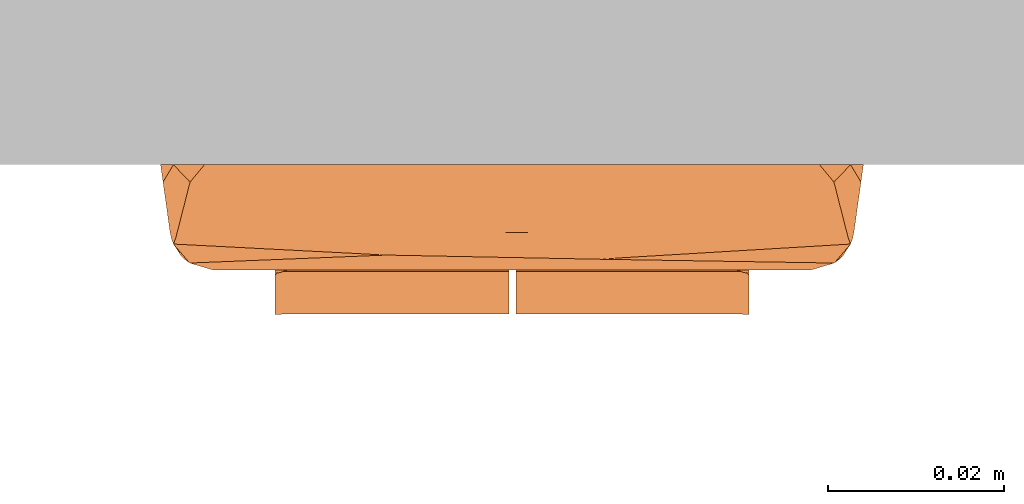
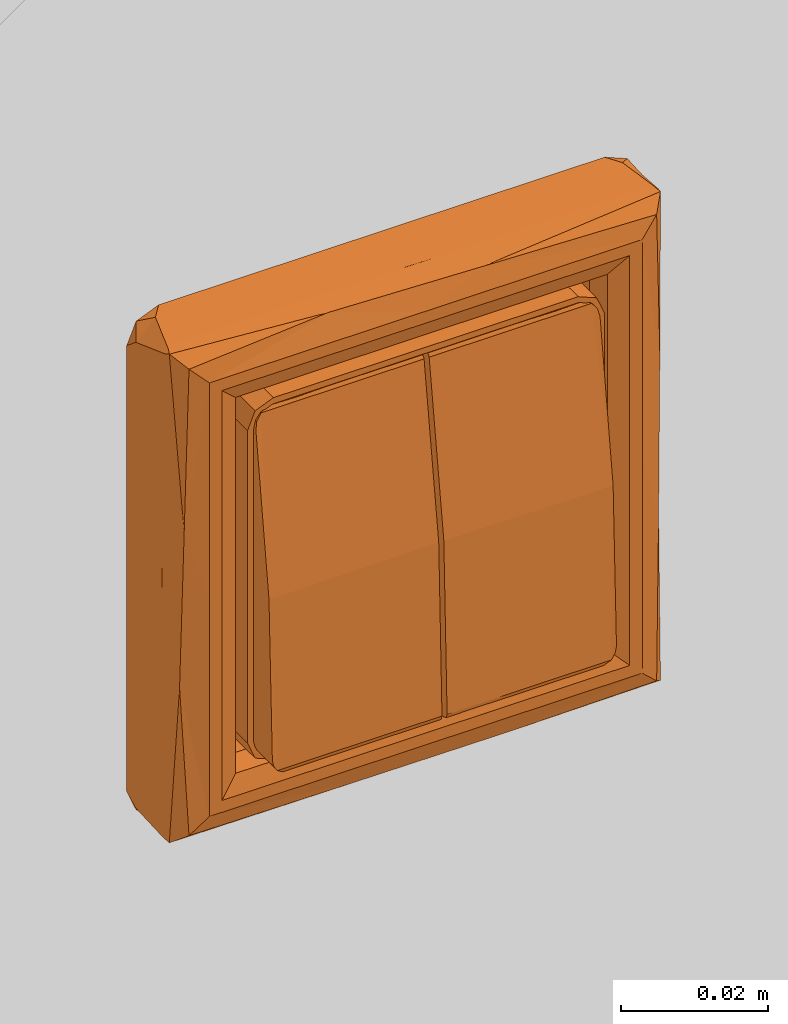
# One storey, part 124 of 197: 1 proxy.
"""IFC2X3 building model written with IfcOpenShell, lengths in metres."""

import ifcopenshell
import ifcopenshell.guid

model = None  # the IFC model being written
_history = None  # IfcOwnerHistory: only IFC2X3 demands one
_inside = {}  # id of a spatial element -> (the spatial element, [elements in it])
_under = {}  # id of a project, library or spatial element -> (it, [spatial elements below it])
_declared = {}  # id of a project -> (the project, [libraries it declares])
_typed = {}  # id of a type object -> (the type object, [elements of that type])
_made_of = {}  # id of a material, layer set ... -> (it, [elements and type objects made of it])


def new_model(schema):
    """Start an empty IFC model of exactly this schema.

    Asked for "IFC4X3", IfcOpenShell would pick the latest addendum, in which some entities
    have other attributes; the version numbers below select the first issue.
    IFC2X3 requires an IfcOwnerHistory on every rooted entity: one is made here for all.
    """
    global model, _history
    if schema == "IFC4X3":
        model = ifcopenshell.file(schema_version=(4, 3, 0, 0))
    else:
        model = ifcopenshell.file(schema=schema)
    _inside.clear()
    _under.clear()
    _declared.clear()
    _typed.clear()
    _made_of.clear()
    _history = None
    if model.schema == "IFC2X3":
        org = make("IfcOrganization", Name="unknown")
        user = make(
            "IfcPersonAndOrganization",
            ThePerson=make("IfcPerson", FamilyName="unknown"),
            TheOrganization=org,
        )
        app = make(
            "IfcApplication",
            ApplicationDeveloper=org,
            Version="unknown",
            ApplicationFullName="unknown",
            ApplicationIdentifier="unknown",
        )
        _history = make(
            "IfcOwnerHistory",
            OwningUser=user,
            OwningApplication=app,
            ChangeAction="ADDED",
            CreationDate=0,
        )
    return model


def make(cls, **values):
    """One entity of the class cls with the attributes given. An attribute that is None is left unset."""
    return model.create_entity(
        cls, **{name: value for name, value in values.items() if value is not None}
    )


def entity(cls, *values):
    """Any entity or typed value of the class cls, its attributes in the order of the schema. None: left unset."""
    e = model.create_entity(cls)
    for i, value in enumerate(values):
        if value is not None:
            e[i] = value
    return e


def rooted(cls, **values):
    """An entity with a GlobalId (a new one), such as an element, a storey or a relation."""
    return make(cls, GlobalId=ifcopenshell.guid.new(), OwnerHistory=_history, **values)


def si_unit(unit_type, name, prefix=None):
    """IfcSIUnit, for example si_unit("LENGTHUNIT", "METRE", prefix="MILLI")."""
    return make("IfcSIUnit", UnitType=unit_type, Prefix=prefix, Name=name)


def converted_unit(unit_type, name, factor, base, dimensions=None, offset=None):
    """IfcConversionBasedUnit, such as the inch: factor (a typed value) times the base unit."""
    return make(
        "IfcConversionBasedUnit"
        if offset is None
        else "IfcConversionBasedUnitWithOffset",
        ConversionOffset=offset,
        Dimensions=None
        if dimensions is None
        else entity("IfcDimensionalExponents", *dimensions),
        UnitType=unit_type,
        Name=name,
        ConversionFactor=make(
            "IfcMeasureWithUnit", ValueComponent=factor, UnitComponent=base
        ),
    )


def assignment(units):
    """IfcUnitAssignment: the units of a project."""
    return None if units is None else make("IfcUnitAssignment", Units=units)


def point(xyz):
    """IfcCartesianPoint."""
    return None if xyz is None else make("IfcCartesianPoint", Coordinates=xyz)


def direction(xyz):
    """IfcDirection."""
    return None if xyz is None else make("IfcDirection", DirectionRatios=xyz)


def frame(location, z_axis=None, x_axis=None):
    """IfcAxis2Placement3D, a coordinate frame: its origin and axes. An axis left out is left unset."""
    return make(
        "IfcAxis2Placement3D",
        Location=point(location),
        Axis=direction(z_axis),
        RefDirection=direction(x_axis),
    )


def origin():
    """The frame at (0, 0, 0) with its axes left unset."""
    return frame((0.0, 0.0, 0.0))


def place(relative_to, where):
    """IfcLocalPlacement: puts the frame where relative to a parent placement (None: the world)."""
    return make(
        "IfcLocalPlacement", PlacementRelTo=relative_to, RelativePlacement=where
    )


def context(
    kind, dimensions, precision=None, world=None, true_north=None, identifier=None
):
    """IfcGeometricRepresentationContext, for example the 3D "Model" context."""
    return make(
        "IfcGeometricRepresentationContext",
        ContextIdentifier=identifier,
        ContextType=kind,
        CoordinateSpaceDimension=dimensions,
        Precision=precision,
        WorldCoordinateSystem=world,
        TrueNorth=true_north,
    )


def subcontext(parent, identifier, kind, view, scale=None):
    """IfcGeometricRepresentationSubContext, for example "Body" below "Model"."""
    return make(
        "IfcGeometricRepresentationSubContext",
        ContextIdentifier=identifier,
        ContextType=kind,
        ParentContext=parent,
        TargetScale=scale,
        TargetView=view,
    )


def project(units=None, contexts=None):
    """IfcProject with its units and contexts."""
    return rooted(
        "IfcProject",
        Name="project",
        RepresentationContexts=contexts,
        UnitsInContext=assignment(units),
    )


def spatial(cls, under=None, at=None, **own):
    """A site, building, storey or space (cls), placed at a placement, below another one or the project."""
    s = rooted(cls, ObjectPlacement=at, **own)
    if under is not None:
        _under.setdefault(under.id(), (under, []))[1].append(s)
    return s


def faces_of(points, faces, orient=None, outer=None):
    """IfcFace entities. A face is a list of loops; a loop is a list of indices into points, from 0.

    orient and outer hold one flag for each loop. By default every Orientation is true, the
    first loop of a face is its IfcFaceOuterBound and the others are IfcFaceBound.
    """
    made = []
    for i, loops in enumerate(faces):
        bounds = []
        for j, loop in enumerate(loops):
            is_outer = j == 0 if outer is None else outer[i][j]
            bounds.append(
                make(
                    "IfcFaceOuterBound" if is_outer else "IfcFaceBound",
                    Bound=make("IfcPolyLoop", Polygon=[points[k] for k in loop]),
                    Orientation=True if orient is None else orient[i][j],
                )
            )
        made.append(make("IfcFace", Bounds=bounds))
    return made


def faceted_brep(points, faces, orient=None, outer=None, voids=None):
    """IfcFacetedBrep: a solid bounded by flat faces; with voids (closed shells), ...WithVoids."""
    shared = [point(p) for p in points]
    hull = make("IfcClosedShell", CfsFaces=faces_of(shared, faces, orient, outer))
    if voids is None:
        return make("IfcFacetedBrep", Outer=hull)
    return make(
        "IfcFacetedBrepWithVoids",
        Outer=hull,
        Voids=[
            make(cls, CfsFaces=faces_of(shared, fs, o, b)) for cls, fs, o, b in voids
        ],
    )


def shape(context_of_items, identifier, shape_type, items):
    """IfcShapeRepresentation: the items that make up one representation, for example the "Body"."""
    return make(
        "IfcShapeRepresentation",
        ContextOfItems=context_of_items,
        RepresentationIdentifier=identifier,
        RepresentationType=shape_type,
        Items=items,
    )


def source(mapping_origin, context_of_items, identifier, shape_type, items):
    """IfcRepresentationMap: a shape defined once, which mapped items show again and again."""
    return make(
        "IfcRepresentationMap",
        MappingOrigin=mapping_origin,
        MappedRepresentation=shape(context_of_items, identifier, shape_type, items),
    )


def transform(
    local_origin,
    x_axis=None,
    y_axis=None,
    z_axis=None,
    scale=None,
    scale2=None,
    scale3=None,
    uniform=True,
):
    """IfcCartesianTransformationOperator3D, or its non-uniform kind. x_axis, y_axis, z_axis: its Axis1, 2, 3."""
    if uniform:
        return make(
            "IfcCartesianTransformationOperator3D",
            Axis1=direction(x_axis),
            Axis2=direction(y_axis),
            LocalOrigin=point(local_origin),
            Scale=scale,
            Axis3=direction(z_axis),
        )
    return make(
        "IfcCartesianTransformationOperator3DnonUniform",
        Axis1=direction(x_axis),
        Axis2=direction(y_axis),
        LocalOrigin=point(local_origin),
        Scale=scale,
        Axis3=direction(z_axis),
        Scale2=scale2,
        Scale3=scale3,
    )


def mapped(mapping_source, mapping_target):
    """IfcMappedItem: shows the shape of a source again, moved by a transform."""
    return make(
        "IfcMappedItem", MappingSource=mapping_source, MappingTarget=mapping_target
    )


def material(Name=None, Category=None):
    """IfcMaterial."""
    return make("IfcMaterial", Name=Name, Category=Category)


def material_list(materials):
    """IfcMaterialList."""
    return make("IfcMaterialList", Materials=materials)


def made_of(thing, what):
    """Note that an element or type object is made of a material, layer set ...; save() writes the relation."""
    if what is not None:
        _made_of.setdefault(what.id(), (what, []))[1].append(thing)
    return thing


def type_object(cls, material=None, **own):
    """A type object (cls), such as IfcWallType, which elements share."""
    return made_of(rooted(cls, **own), material)


def type_shapes(of_type, sources):
    """Give a type object the sources (RepresentationMaps) that its elements show as mapped items."""
    of_type.RepresentationMaps = sources


def element(
    cls,
    number,
    at=None,
    inside=None,
    cuts=None,
    type_object=None,
    material=None,
    context=None,
    identifier="Body",
    shape_type=None,
    held_by="IfcProductDefinitionShape",
    body=None,
    shapes=None,
    **own,
):
    """One element of the class cls, such as IfcWall. Its Tag is "e" and its number.

    at: its placement. inside: the storey or other place that contains it. cuts: it is an
    opening in that element (IfcRelVoidsElement). A single representation is given by context,
    identifier, shape_type and body (its items); several are given by shapes. held_by: the class
    of the entity that holds the representations. save() writes the other relations.
    """
    e = rooted(cls, Tag="e%d" % number, ObjectPlacement=at, **own)
    if body is not None:
        shapes = [shape(context, identifier, shape_type, body)]
    if shapes is not None:
        e.Representation = make(held_by, Representations=shapes)
    if inside is not None:
        _inside.setdefault(inside.id(), (inside, []))[1].append(e)
    if cuts is not None:
        rooted(
            "IfcRelVoidsElement", RelatingBuildingElement=cuts, RelatedOpeningElement=e
        )
    if type_object is not None:
        _typed.setdefault(type_object.id(), (type_object, []))[1].append(e)
    return made_of(e, material)


def aggregate(whole, parts):
    """IfcRelAggregates: a whole, such as a stair, and the parts it consists of."""
    return rooted("IfcRelAggregates", RelatingObject=whole, RelatedObjects=parts)


def save(model, path):
    """Write the relations noted so far, then the file.

    IfcRelAggregates (storeys below a building ...), IfcRelContainedInSpatialStructure (elements
    in a storey), IfcRelDefinesByType, IfcRelAssociatesMaterial and IfcRelDeclares: one each for
    every whole, place, type object, material and project.
    """
    for whole, parts in _under.values():
        aggregate(whole, parts)
    for where, things in _inside.values():
        rooted(
            "IfcRelContainedInSpatialStructure",
            RelatedElements=things,
            RelatingStructure=where,
        )
    for kind, things in _typed.values():
        rooted("IfcRelDefinesByType", RelatedObjects=things, RelatingType=kind)
    for what, things in _made_of.values():
        rooted("IfcRelAssociatesMaterial", RelatedObjects=things, RelatingMaterial=what)
    for by, libraries in _declared.values():
        rooted("IfcRelDeclares", RelatingContext=by, RelatedDefinitions=libraries)
    model.write(path)


model = new_model("IFC2X3")

# Units and contexts
model_context = context("Model", 3, precision=1e-05, world=origin(), true_north=direction((6.123031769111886e-17, 1.0)))
body_context = subcontext(model_context, "Body", "Model", "MODEL_VIEW")
ifc_project = project(units=[si_unit("LENGTHUNIT", "METRE"), converted_unit("PLANEANGLEUNIT", "DEGREE", entity("IfcPlaneAngleMeasure", 0.017453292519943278), si_unit("PLANEANGLEUNIT", "RADIAN"), dimensions=[0, 0, 0, 0, 0, 0, 0]), si_unit("AREAUNIT", "SQUARE_METRE")], contexts=[model_context])

# Site, building, storey
site_placement = place(None, origin())
site = spatial("IfcSite", under=ifc_project, at=site_placement, Name="Default", CompositionType="ELEMENT")
building_placement = place(site_placement, origin())
building = spatial("IfcBuilding", under=site, at=building_placement, CompositionType="ELEMENT")
storey_placement = place(building_placement, origin())
storey = spatial("IfcBuildingStorey", under=building, at=storey_placement, Name="Niveau 0", CompositionType="ELEMENT", Elevation=0.0)

# Proxy
ifc_material_1 = material(Name="A-PVC GRIS 85-85-85")
ifc_material_2 = material(Name="A PVC GRIS 177-177-177")
ifc_material_list = material_list([ifc_material_1, ifc_material_2])
building_element_proxy_type = type_object("IfcBuildingElementProxyType", Name="Interrupteur double encastré étanche:Double bouton poussoir", PredefinedType="NOTDEFINED", material=ifc_material_list)
shared_shape = source(origin(), body_context, "Body", "Brep", [
    faceted_brep([(-0.00035746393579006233, -0.017018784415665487, -0.02802109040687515), (-0.00863876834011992, -0.017018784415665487, -0.02802109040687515), (-0.0056602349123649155, -0.01670041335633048, -0.028789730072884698), (-0.013287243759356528, -0.017018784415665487, -0.02802109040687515), (-0.017935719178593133, -0.017018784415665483, -0.02802109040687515), (-0.026217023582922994, -0.017018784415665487, -0.02802109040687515), (-0.019463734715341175, -0.016767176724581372, -0.02872774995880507), (-0.016920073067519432, -0.016122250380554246, -0.028999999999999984), (-0.02400000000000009, -0.016122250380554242, -0.028999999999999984), (-0.00035746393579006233, -0.016122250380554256, -0.028999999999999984), (-0.00035746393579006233, -0.016785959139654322, -0.028707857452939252), (-0.025164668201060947, -0.016729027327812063, -0.028764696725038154), (-0.010963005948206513, -0.016785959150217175, -0.028707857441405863), (-0.008638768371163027, -0.01612225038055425, -0.028999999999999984), (-0.013532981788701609, -0.012145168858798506, 0.028275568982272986), (-0.010408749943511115, -0.011820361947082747, 0.028806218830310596), (-0.015603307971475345, -0.01182164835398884, 0.028805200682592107), (-0.025008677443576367, -0.011795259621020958, 0.028825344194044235), (-0.02032308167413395, -0.01188133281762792, 0.02875344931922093), (-0.024000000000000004, -0.011262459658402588, 0.028999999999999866), (-0.00449811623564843, -0.012145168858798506, 0.028275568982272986), (-0.005816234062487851, -0.011833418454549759, 0.02879570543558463), (-0.009392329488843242, -0.012145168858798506, 0.028275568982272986), (-0.00035746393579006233, -0.011833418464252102, 0.028795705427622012), (-0.00035746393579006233, -0.011262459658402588, 0.028999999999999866), (-0.004498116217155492, -0.011262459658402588, 0.02899999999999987), (0.0004425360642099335, -0.011833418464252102, 0.028795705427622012), (0.004583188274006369, -0.011262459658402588, 0.02899999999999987), (0.0004425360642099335, -0.011262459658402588, 0.028999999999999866), (-0.008638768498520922, -0.011262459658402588, 0.02899999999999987), (-0.012178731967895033, -0.011262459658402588, 0.028999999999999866), (-0.017673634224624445, -0.012145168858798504, 0.028275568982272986), (-0.02181428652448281, -0.012145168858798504, 0.028275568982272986), (-0.018089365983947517, -0.011262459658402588, 0.028999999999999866), (-0.00035746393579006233, -0.012145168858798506, 0.028275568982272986), (0.0004425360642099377, -0.012145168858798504, 0.028275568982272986), (0.004583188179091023, -0.012145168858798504, 0.028275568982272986), (-0.025954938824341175, -0.012145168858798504, 0.028275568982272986), (0.021814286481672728, -0.012145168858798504, 0.028275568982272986), (0.025954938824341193, -0.012145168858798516, 0.028275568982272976), (0.025008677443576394, -0.011795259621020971, 0.028825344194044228), (-0.026727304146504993, -0.012347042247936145, 0.027249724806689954), (-0.026999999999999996, -0.012587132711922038, 0.025999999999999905), (-0.00035746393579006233, -0.01613142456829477, 0.0002613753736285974), (0.0004425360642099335, -0.01613142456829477, 0.00026137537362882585), (0.017673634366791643, -0.012145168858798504, 0.028275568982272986), (0.01353298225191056, -0.012145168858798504, 0.028275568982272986), (0.009392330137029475, -0.012145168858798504, 0.028275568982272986), (-0.026999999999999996, -0.016144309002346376, 0.00011203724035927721), (-0.026999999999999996, -0.017058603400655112, -0.025999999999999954), (0.0004425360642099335, -0.017018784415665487, -0.02802109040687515), (0.00872384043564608, -0.017018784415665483, -0.02802109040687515), (0.013329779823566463, -0.017018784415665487, -0.02802109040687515), (0.017935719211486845, -0.017018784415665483, -0.02802109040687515), (0.026217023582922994, -0.017018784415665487, -0.02802109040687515), (-0.02679739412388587, -0.017039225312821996, -0.02708378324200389), (-0.02400000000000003, 0.0, 0.028999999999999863), (-0.026121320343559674, 0.0, 0.028121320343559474), (-0.027, 0.0, 0.025999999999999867), (0.027, 0.0, 0.02599999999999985), (0.026121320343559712, 0.0, 0.028121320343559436), (0.026727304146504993, -0.012347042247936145, 0.027249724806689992), (0.027, -0.012587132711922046, 0.025999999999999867), (0.024000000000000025, 0.0, 0.028999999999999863), (0.02400000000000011, -0.011262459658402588, 0.028999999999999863), (-0.026121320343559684, 0.0, -0.02812132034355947), (-0.027, 0.0, -0.02599999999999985), (-0.024000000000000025, 0.0, -0.028999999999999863), (0.02400000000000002, 0.0, -0.028999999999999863), (0.026121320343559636, 0.0, -0.028121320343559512), (0.02516466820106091, -0.016729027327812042, -0.02876469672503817), (0.024000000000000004, -0.016122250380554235, -0.028999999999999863), (0.026797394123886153, -0.017039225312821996, -0.02708378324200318), (0.027, 0.0, -0.025999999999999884), (0.027, -0.01705860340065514, -0.025999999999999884), (0.027000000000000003, -0.016143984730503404, 0.00011580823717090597), (0.011026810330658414, -0.01678595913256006, -0.02870785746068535), (0.005734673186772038, -0.016861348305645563, -0.028613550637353), (0.008723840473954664, -0.016122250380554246, -0.028999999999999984), (0.016453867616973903, -0.01679434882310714, -0.02869856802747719), (0.0004425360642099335, -0.016122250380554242, -0.028999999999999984), (0.017005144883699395, -0.016122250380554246, -0.02899999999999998), (0.0004425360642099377, -0.016785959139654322, -0.028707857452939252), (0.0004425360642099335, -0.009457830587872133, -0.029000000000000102), (-0.00035746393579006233, -0.009457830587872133, -0.029000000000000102), (-0.00035746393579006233, -0.009457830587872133, 0.028999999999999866), (0.0004425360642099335, -0.009457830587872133, 0.028999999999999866), (0.008723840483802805, -0.011262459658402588, 0.028999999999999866), (0.01222126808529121, -0.011262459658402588, 0.028999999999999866), (0.01811063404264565, -0.011262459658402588, 0.028999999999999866), (0.010472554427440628, -0.01182166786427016, 0.028805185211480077), (0.015603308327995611, -0.01182098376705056, 0.028805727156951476), (0.004851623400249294, -0.0118334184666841, 0.02879570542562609), (0.020322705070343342, -0.011881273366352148, 0.028753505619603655)], [[[0, 1, 2]], [[3, 4, 5, 6]], [[7, 6, 8]], [[9, 10, 2]], [[11, 6, 5]], [[1, 3, 12]], [[12, 2, 1]], [[13, 12, 7]], [[12, 3, 6]], [[2, 12, 13]], [[9, 2, 13]], [[2, 10, 0]], [[8, 6, 11]], [[12, 6, 7]], [[14, 15, 16]], [[17, 18, 19]], [[20, 21, 22]], [[23, 24, 25]], [[26, 27, 28]], [[29, 30, 15]], [[21, 25, 29]], [[31, 16, 18]], [[16, 31, 14]], [[17, 32, 18]], [[19, 18, 33]], [[20, 34, 23]], [[26, 35, 36]], [[21, 29, 15]], [[25, 21, 23]], [[30, 33, 16]], [[14, 22, 15]], [[30, 16, 15]], [[33, 18, 16]], [[22, 21, 15]], [[32, 17, 37]], [[38, 39, 40]], [[32, 31, 18]], [[23, 21, 20]], [[41, 42, 37]], [[43, 34, 20, 22, 14, 31, 32, 37]], [[44, 39, 38, 45, 46, 47, 36, 35]], [[48, 43, 37]], [[37, 42, 48]], [[48, 49, 5]], [[43, 5, 4, 3, 1, 0]], [[44, 50, 51, 52, 53, 54]], [[5, 49, 55]], [[5, 43, 48]], [[19, 56, 17]], [[57, 37, 17]], [[17, 56, 57]], [[57, 58, 41]], [[42, 41, 58]], [[57, 41, 37]], [[59, 60, 61]], [[61, 62, 59]], [[60, 39, 61]], [[63, 64, 40]], [[39, 60, 40]], [[40, 60, 63]], [[55, 65, 5]], [[65, 55, 66]], [[55, 49, 66]], [[65, 67, 11]], [[8, 11, 67]], [[65, 11, 5]], [[68, 69, 70]], [[70, 71, 68]], [[69, 54, 70]], [[69, 72, 54]], [[72, 69, 73]], [[74, 72, 73]], [[75, 74, 73, 59, 62]], [[58, 66, 49, 48, 42]], [[76, 77, 78]], [[50, 77, 51]], [[70, 53, 79]], [[79, 71, 70]], [[76, 51, 77]], [[79, 52, 76]], [[77, 80, 78]], [[78, 81, 76]], [[52, 51, 76]], [[77, 50, 82]], [[70, 54, 53]], [[76, 81, 79]], [[77, 82, 80]], [[79, 81, 71]], [[52, 79, 53]], [[83, 84, 9, 13, 7, 8, 67, 68, 71, 81, 78, 80]], [[73, 69, 68, 67, 65, 66, 58, 57, 56, 63, 60, 59]], [[63, 56, 19, 33, 30, 29, 25, 24, 85, 86, 28, 27, 87, 88, 89, 64]], [[88, 90, 91]], [[26, 92, 87, 27]], [[90, 92, 47]], [[91, 93, 89]], [[88, 91, 89]], [[93, 38, 40]], [[88, 87, 90]], [[64, 89, 93]], [[93, 91, 45]], [[46, 45, 91]], [[26, 36, 47, 92]], [[90, 47, 46]], [[90, 46, 91]], [[93, 40, 64]], [[93, 45, 38]], [[87, 92, 90]], [[39, 62, 61]], [[75, 62, 39]], [[39, 44, 75]], [[54, 75, 44]], [[54, 74, 75]], [[74, 54, 72]], [[86, 85, 84, 83]], [[84, 85, 24, 23, 34, 43, 0, 10, 9]], [[50, 44, 35, 26, 28, 86, 83, 80, 82]]]),
    faceted_brep([(0.027859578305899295, -0.00041725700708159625, 0.0287361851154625), (0.0274142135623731, -5.663184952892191e-05, 0.029414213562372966), (0.02784775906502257, 0.0, 0.02876536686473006), (0.028000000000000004, 0.0, 0.027999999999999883), (0.028000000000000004, -0.0008999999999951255, 0.02799999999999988), (0.026736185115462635, -0.00041725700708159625, -0.029859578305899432), (0.0274142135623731, -5.663184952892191e-05, -0.029414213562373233), (0.026765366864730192, 0.0, -0.02984775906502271), (0.026000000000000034, 0.0, -0.03000000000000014), (0.02600000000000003, -0.0008999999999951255, -0.03000000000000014), (-0.0278595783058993, -0.00041725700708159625, -0.028736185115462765), (-0.0274142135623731, -5.663184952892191e-05, -0.029414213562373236), (-0.027847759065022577, 0.0, -0.028765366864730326), (-0.028000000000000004, 0.0, -0.02800000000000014), (-0.028000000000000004, -0.0008999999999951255, -0.02800000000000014), (-0.02673618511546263, -0.00041725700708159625, 0.02985957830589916), (-0.0274142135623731, -5.663184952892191e-05, 0.029414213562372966), (-0.02676536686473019, 0.0, 0.029847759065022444), (-0.026000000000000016, 0.0, 0.02999999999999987), (-0.026000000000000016, -0.0008999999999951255, 0.02999999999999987), (0.027999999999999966, -0.0008999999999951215, 0.02999999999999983), (0.0278595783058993, -0.0004172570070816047, -0.028736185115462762), (0.027999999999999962, -0.0008999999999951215, -0.030000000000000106), (0.028, -0.0008999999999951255, -0.028000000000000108), (0.02783915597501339, -0.00038653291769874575, 0.02983915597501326), (-0.026736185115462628, -0.00041725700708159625, -0.029859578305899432), (-0.027999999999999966, -0.0008999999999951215, -0.0300000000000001), (-0.026000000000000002, -0.0008999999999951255, -0.030000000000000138), (0.02783915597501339, -0.00038653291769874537, -0.02983915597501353), (-0.0278595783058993, -0.00041725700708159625, 0.028736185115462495), (-0.027999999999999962, -0.0008999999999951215, 0.029999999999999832), (-0.028, -0.0008999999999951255, 0.02799999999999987), (-0.027839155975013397, -0.0003865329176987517, -0.02983915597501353), (0.02673618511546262, -0.00041725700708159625, 0.029859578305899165), (0.025999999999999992, -0.0008999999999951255, 0.02999999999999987), (-0.02783915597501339, -0.0003865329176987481, 0.02983915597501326), (-0.03891841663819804, -0.007695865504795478, 0.04010580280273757), (-0.03877066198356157, -0.008387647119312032, 0.04028361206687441), (-0.03828361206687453, -0.008387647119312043, 0.04077066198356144), (-0.038105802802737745, -0.007695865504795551, 0.040918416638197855), (-0.03972186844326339, -0.001979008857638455, 0.03864437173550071), (-0.03853553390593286, 0.0, 0.04053553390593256), (-0.039287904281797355, 0.0, 0.03871915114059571), (-0.04000000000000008, 0.0, 0.03700000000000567), (-0.03664437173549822, -0.0019790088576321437, 0.04172186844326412), (-0.03853553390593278, -0.00903204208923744, 0.04053553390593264), (-0.03500000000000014, 0.0, 0.04199999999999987), (-0.036719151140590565, 0.0, 0.04128790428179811), (0.03810580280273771, -0.007695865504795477, 0.04091841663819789), (0.03828361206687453, -0.008387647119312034, 0.04077066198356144), (0.038918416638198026, -0.00769586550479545, 0.04010580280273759), (0.03664437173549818, -0.0019790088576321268, 0.04172186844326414), (0.03853553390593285, 0.0, 0.04053553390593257), (0.036719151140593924, 0.0, 0.041287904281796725), (0.03500000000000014, 0.0, 0.04199999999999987), (0.039721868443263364, -0.0019790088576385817, 0.038644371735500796), (0.038770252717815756, -0.008389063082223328, 0.04028408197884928), (0.03853553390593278, -0.00903204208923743, 0.04053553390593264), (0.04000000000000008, 0.0, 0.036999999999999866), (0.039287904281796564, 0.0, 0.03871915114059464), (-0.03810580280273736, -0.007695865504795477, -0.04091841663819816), (-0.03828361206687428, -0.008387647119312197, -0.04077066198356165), (-0.03877066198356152, -0.008387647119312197, -0.04028361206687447), (-0.038918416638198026, -0.00769586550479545, -0.04010580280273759), (-0.03664437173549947, -0.0019790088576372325, -0.04172186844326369), (-0.03853553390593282, 0.0, -0.0405355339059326), (-0.03671915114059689, 0.0, -0.041287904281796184), (-0.035000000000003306, 0.0, -0.04199999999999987), (-0.03972186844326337, -0.0019790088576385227, -0.038644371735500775), (-0.03853553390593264, -0.009032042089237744, -0.04053553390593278), (-0.04000000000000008, 0.0, -0.03699999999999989), (-0.03928790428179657, 0.0, -0.03871915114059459), (0.03891841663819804, -0.007695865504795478, -0.04010580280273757), (0.03877066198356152, -0.008387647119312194, -0.04028361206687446), (0.03828361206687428, -0.008387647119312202, -0.04077066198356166), (0.0381058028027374, -0.0076958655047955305, -0.040918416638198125), (0.03972186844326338, -0.0019790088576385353, -0.038644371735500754), (0.03853553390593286, 0.0, -0.04053553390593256), (0.03928790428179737, 0.0, -0.038719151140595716), (0.04000000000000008, 0.0, -0.03700000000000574), (0.036644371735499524, -0.0019790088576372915, -0.041721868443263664), (0.03853553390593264, -0.009032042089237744, -0.04053553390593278), (0.03500000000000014, 0.0, -0.04199999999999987), (0.03671915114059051, 0.0, -0.04128790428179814), (0.03396707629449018, -0.012000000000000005, 0.03596707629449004), (0.031999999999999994, -0.012000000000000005, 0.03399999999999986), (0.031999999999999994, -0.011999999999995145, 0.0009170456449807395), (0.03199999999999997, -0.012000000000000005, -0.03400000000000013), (-0.002917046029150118, -0.011999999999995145, 0.03399999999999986), (-0.03199999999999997, -0.012000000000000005, 0.03399999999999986), (0.0, -0.011999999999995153, 0.03596707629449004), (0.03396707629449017, -0.011999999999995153, 0.0), (-0.03396707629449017, -0.012000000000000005, 0.035967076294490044), (-0.031999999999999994, -0.011999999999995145, -0.0009170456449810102), (-0.031999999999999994, -0.012000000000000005, -0.03400000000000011), (-0.03396707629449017, -0.011999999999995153, 0.0), (-0.03396707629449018, -0.012000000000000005, -0.0359670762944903), (0.0, -0.011999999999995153, -0.03596707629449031), (0.03396707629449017, -0.012000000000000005, -0.035967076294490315), (0.00291704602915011, -0.011999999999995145, -0.03400000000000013), (-0.027847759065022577, 0.0, 0.028765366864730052), (-0.028, 0.0, 0.02799999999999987), (0.026765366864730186, 0.0, 0.029847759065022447), (0.026000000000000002, 0.0, 0.029999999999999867), (-0.026765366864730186, 0.0, -0.02984775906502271), (-0.026000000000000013, 0.0, -0.03000000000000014), (0.02784775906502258, 0.0, -0.028765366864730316), (0.028000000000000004, 0.0, -0.028000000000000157), (0.028, -0.007999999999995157, -0.030000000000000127), (0.027999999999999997, -0.007999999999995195, 0.0), (0.028000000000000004, -0.007999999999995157, 0.029999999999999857), (-0.027999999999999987, -0.007999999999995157, -0.030000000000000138), (-0.006917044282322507, -0.007999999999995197, -0.03000000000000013), (-0.028, -0.007999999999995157, 0.029999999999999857), (-0.027999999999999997, -0.007999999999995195, 0.0), (0.006917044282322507, -0.007999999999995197, 0.02999999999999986), (0.029171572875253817, -0.010828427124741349, 0.03117157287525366), (0.02917157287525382, -0.010828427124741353, -0.031171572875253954), (0.029187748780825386, -0.010844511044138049, -0.007454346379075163), (0.038918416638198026, -0.007695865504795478, -0.0010673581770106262), (-0.005945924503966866, -0.010913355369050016, -0.031259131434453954), (-0.029171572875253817, -0.010828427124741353, -0.03117157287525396), (0.0009326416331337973, -0.007695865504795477, -0.04091841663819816), (-0.02917157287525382, -0.010828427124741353, 0.031171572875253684), (-0.029187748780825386, -0.010844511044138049, 0.007454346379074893), (-0.038918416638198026, -0.007695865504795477, 0.0010673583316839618), (0.005945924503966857, -0.010913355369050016, 0.031259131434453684), (-0.0009326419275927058, -0.007695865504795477, 0.04091841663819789), (0.0376829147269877, -0.010345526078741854, 0.014296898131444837), (0.03722312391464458, -0.01079448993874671, -0.011408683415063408), (0.03669114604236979, -0.011192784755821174, -0.038691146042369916), (0.036691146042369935, -0.011192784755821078, 0.0386911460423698), (0.014284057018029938, -0.010284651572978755, -0.03973683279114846), (-0.009744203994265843, -0.010756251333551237, -0.03926716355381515), (-0.036691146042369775, -0.011192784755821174, -0.03869114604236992), (-0.03768291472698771, -0.010345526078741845, -0.014296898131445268), (-0.03722312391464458, -0.010794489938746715, 0.011408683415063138), (-0.03669114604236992, -0.011192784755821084, 0.0386911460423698), (-0.014284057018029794, -0.010284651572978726, 0.03973683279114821), (0.009744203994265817, -0.010756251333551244, 0.03926716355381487)], [[[0, 1, 2]], [[3, 4, 0]], [[2, 3, 0]], [[5, 6, 7]], [[8, 9, 5]], [[7, 8, 5]], [[10, 11, 12]], [[13, 14, 10]], [[12, 13, 10]], [[15, 16, 17]], [[18, 19, 15]], [[17, 18, 15]], [[0, 4, 20]], [[21, 22, 23]], [[24, 1, 0]], [[20, 24, 0]], [[5, 9, 22]], [[25, 26, 27]], [[28, 6, 5]], [[22, 28, 5]], [[10, 14, 26]], [[29, 30, 31]], [[32, 11, 10]], [[26, 32, 10]], [[15, 19, 30]], [[33, 20, 34]], [[35, 16, 15]], [[30, 35, 15]], [[36, 37, 38, 39]], [[40, 41, 42, 43]], [[39, 44, 40, 36]], [[38, 37, 45]], [[41, 44, 46, 47]], [[41, 40, 44]], [[48, 49, 50]], [[51, 52, 53, 54]], [[50, 55, 51, 48]], [[56, 49, 57]], [[52, 55, 58, 59]], [[52, 51, 55]], [[50, 49, 56]], [[60, 61, 62, 63]], [[64, 65, 66, 67]], [[63, 68, 64, 60]], [[62, 61, 69]], [[65, 68, 70, 71]], [[65, 64, 68]], [[72, 73, 74, 75]], [[76, 77, 78, 79]], [[75, 80, 76, 72]], [[74, 73, 81]], [[77, 80, 82, 83]], [[77, 76, 80]], [[84, 85, 86]], [[84, 86, 87]], [[84, 88, 85]], [[84, 89, 88]], [[89, 84, 90]], [[87, 91, 84]], [[89, 90, 92]], [[92, 93, 89]], [[92, 94, 93]], [[94, 92, 95]], [[94, 95, 96]], [[94, 96, 97]], [[94, 97, 98]], [[98, 87, 99]], [[87, 98, 91]], [[98, 99, 94]], [[46, 43, 42, 41, 47]], [[43, 100, 101, 13, 12, 70]], [[18, 17, 46, 54, 102, 103]], [[70, 67, 66, 65, 71]], [[104, 105, 8, 7, 82, 67]], [[58, 54, 53, 52, 59]], [[3, 2, 58, 79, 106, 107]], [[82, 79, 78, 77, 83]], [[43, 46, 16]], [[16, 100, 43]], [[17, 16, 46]], [[67, 70, 11]], [[12, 11, 70]], [[11, 104, 67]], [[2, 1, 58]], [[102, 54, 1]], [[58, 1, 54]], [[6, 106, 79]], [[6, 82, 7]], [[79, 82, 6]], [[33, 34, 103]], [[102, 1, 33]], [[103, 102, 33]], [[4, 3, 107, 23, 22, 108, 109, 110, 20]], [[21, 23, 107]], [[106, 6, 21]], [[107, 106, 21]], [[9, 8, 105, 27, 26, 111, 112, 108, 22]], [[25, 27, 105]], [[104, 11, 25]], [[105, 104, 25]], [[14, 13, 101, 31, 30, 113, 114, 111, 26]], [[29, 31, 101]], [[100, 16, 29]], [[101, 100, 29]], [[19, 18, 103, 34, 20, 110, 115, 113, 30]], [[116, 86, 85]], [[109, 116, 110]], [[108, 117, 118]], [[109, 118, 116]], [[87, 86, 118]], [[116, 118, 86]], [[108, 118, 109]], [[87, 118, 117]], [[58, 55, 50, 119, 72, 76, 79]], [[117, 99, 87]], [[120, 112, 121]], [[120, 117, 108]], [[108, 112, 120]], [[94, 99, 120]], [[117, 120, 99]], [[112, 111, 121]], [[94, 120, 121]], [[82, 80, 75, 122, 60, 64, 67]], [[121, 93, 94]], [[114, 121, 111]], [[113, 123, 124]], [[114, 124, 121]], [[89, 93, 124]], [[121, 124, 93]], [[113, 124, 114]], [[89, 124, 123]], [[70, 68, 63, 125, 36, 40, 43]], [[123, 88, 89]], [[126, 115, 116]], [[126, 123, 113]], [[113, 115, 126]], [[85, 88, 126]], [[123, 126, 88]], [[115, 110, 116]], [[85, 126, 116]], [[46, 44, 39, 127, 48, 51, 54]], [[6, 28, 21]], [[22, 21, 28]], [[11, 32, 25]], [[26, 25, 32]], [[16, 35, 29]], [[30, 29, 35]], [[1, 24, 33]], [[20, 33, 24]], [[57, 128, 56]], [[129, 128, 91]], [[128, 84, 91]], [[56, 128, 50]], [[73, 72, 119]], [[81, 129, 130]], [[129, 98, 130]], [[131, 128, 57]], [[73, 129, 81]], [[98, 129, 91]], [[128, 131, 84]], [[119, 50, 128]], [[73, 119, 129]], [[128, 129, 119]], [[81, 132, 74]], [[97, 96, 133]], [[132, 98, 97]], [[74, 132, 75]], [[61, 60, 122]], [[133, 132, 97]], [[133, 96, 134]], [[130, 132, 81]], [[133, 69, 61]], [[69, 133, 134]], [[132, 130, 98]], [[122, 75, 132]], [[61, 122, 133]], [[132, 133, 122]], [[69, 135, 62]], [[136, 135, 95]], [[135, 96, 95]], [[62, 135, 63]], [[37, 36, 125]], [[45, 136, 137]], [[136, 92, 137]], [[134, 135, 69]], [[37, 136, 45]], [[92, 136, 95]], [[135, 134, 96]], [[125, 63, 135]], [[37, 125, 136]], [[135, 136, 125]], [[45, 138, 38]], [[90, 84, 139]], [[138, 92, 90]], [[38, 138, 39]], [[49, 48, 127]], [[139, 138, 90]], [[139, 84, 131]], [[137, 138, 45]], [[139, 57, 49]], [[57, 139, 131]], [[138, 137, 92]], [[127, 39, 138]], [[49, 127, 139]], [[138, 139, 127]]]),
    faceted_brep([(-0.023923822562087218, -0.012, 0.029999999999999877), (-0.026789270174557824, -0.012, 0.028813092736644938), (-0.02397617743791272, -0.012, 0.028999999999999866), (0.02392382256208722, -0.012, 0.02999999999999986), (-0.026097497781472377, -0.012, 0.028121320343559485), (-0.026976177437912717, -0.012, 0.025999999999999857), (-0.02797617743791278, -0.012, 0.025947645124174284), (-0.02797617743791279, -0.012, -0.025900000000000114), (-0.026976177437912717, -0.012, -0.025999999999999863), (-0.026775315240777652, -0.012, -0.028799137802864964), (-0.026097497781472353, -0.012, -0.028121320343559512), (-0.02397617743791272, -0.012, -0.028999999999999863), (-0.023876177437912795, -0.012, -0.030000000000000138), (0.024023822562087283, -0.012, -0.029000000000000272), (0.02392382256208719, -0.012, -0.030000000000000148), (0.026822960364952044, -0.012, -0.028799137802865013), (0.026145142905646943, -0.012, -0.028121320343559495), (0.02702382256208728, -0.012, -0.025999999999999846), (0.02802382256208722, -0.012, -0.02590000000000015), (0.02802382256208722, -0.012, 0.025899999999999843), (0.02702382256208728, -0.012, 0.025999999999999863), (0.026822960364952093, -0.012, 0.02879913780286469), (0.024023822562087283, -0.012, 0.028999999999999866), (0.026145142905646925, -0.012, 0.028121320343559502), (-0.02387617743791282, 0.0, -0.030000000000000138), (-0.026775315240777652, 0.0, -0.028799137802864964), (-0.023976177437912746, 0.0, -0.028999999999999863), (0.02402382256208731, 0.0, -0.028999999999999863), (0.02392382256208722, 0.0, -0.030000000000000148), (-0.026097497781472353, 0.0, -0.028121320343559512), (-0.026976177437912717, 0.0, -0.025999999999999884), (-0.02797617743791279, 0.0, -0.02590000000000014), (-0.026976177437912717, 0.0, 0.02599999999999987), (-0.02797617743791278, 0.0, 0.025947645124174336), (-0.026789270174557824, 0.0, 0.028813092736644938), (-0.026097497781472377, 0.0, 0.028121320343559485), (-0.023976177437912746, 0.0, 0.028999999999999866), (-0.023923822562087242, 0.0, 0.029999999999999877), (0.023923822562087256, 0.0, 0.02999999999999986), (0.024023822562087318, 0.0, 0.028999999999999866), (0.026822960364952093, 0.0, 0.02879913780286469), (0.026145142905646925, 0.0, 0.028121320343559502), (0.02702382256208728, 0.0, 0.02599999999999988), (0.02802382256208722, 0.0, 0.025899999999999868), (0.02802382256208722, 0.0, -0.025900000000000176), (0.02702382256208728, 0.0, -0.02599999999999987), (0.026822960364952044, 0.0, -0.028799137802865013), (0.026145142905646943, 0.0, -0.028121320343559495)], [[[0, 1, 2]], [[0, 2, 3]], [[2, 1, 4]], [[1, 5, 4]], [[5, 1, 6]], [[5, 6, 7]], [[8, 5, 7]], [[9, 8, 7]], [[8, 9, 10]], [[9, 11, 10]], [[9, 12, 11]], [[11, 12, 13]], [[14, 13, 12]], [[15, 13, 14]], [[13, 15, 16]], [[15, 17, 16]], [[15, 18, 17]], [[18, 19, 17]], [[17, 19, 20]], [[20, 19, 21]], [[3, 22, 21]], [[21, 22, 23]], [[20, 21, 23]], [[22, 3, 2]], [[24, 25, 26]], [[24, 26, 27]], [[27, 28, 24]], [[26, 25, 29]], [[25, 30, 29]], [[30, 25, 31]], [[30, 31, 32]], [[32, 31, 33]], [[34, 32, 33]], [[32, 34, 35]], [[34, 36, 35]], [[34, 37, 36]], [[36, 37, 38]], [[38, 39, 36]], [[40, 39, 38]], [[39, 40, 41]], [[40, 42, 41]], [[40, 43, 42]], [[43, 44, 42]], [[42, 44, 45]], [[45, 44, 46]], [[28, 27, 46]], [[46, 27, 47]], [[45, 46, 47]], [[7, 6, 33, 31]], [[7, 31, 25, 9]], [[25, 24, 12, 9]], [[14, 12, 24, 28]], [[14, 28, 46, 15]], [[46, 44, 18, 15]], [[19, 18, 44, 43]], [[19, 43, 40, 21]], [[40, 38, 3, 21]], [[0, 3, 38, 37]], [[0, 37, 34, 1]], [[34, 33, 6, 1]], [[5, 8, 30, 32]], [[22, 2, 36, 39]], [[17, 20, 42, 45]], [[11, 13, 27, 26]], [[32, 35, 4, 5]], [[36, 2, 4, 35]], [[39, 41, 23, 22]], [[42, 20, 23, 41]], [[45, 47, 16, 17]], [[27, 13, 16, 47]], [[26, 29, 10, 11]], [[30, 8, 10, 29]]]),
])
type_shapes(building_element_proxy_type, [shared_shape])
proxy_placement = place(storey_placement, frame((-413.6934485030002, 109.31996719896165, 1.1)))
element("IfcBuildingElementProxy", 1, at=proxy_placement, inside=storey, type_object=building_element_proxy_type, material=ifc_material_list, Name="Interrupteur double encastré étanche:Double bouton poussoir", ObjectType="Interrupteur double encastré étanche:Double bouton poussoir", context=body_context, shape_type="MappedRepresentation", body=[
    mapped(shared_shape, transform((0.0, 0.0, 0.0), scale=1.0)),
])

save(model, "model.ifc")
